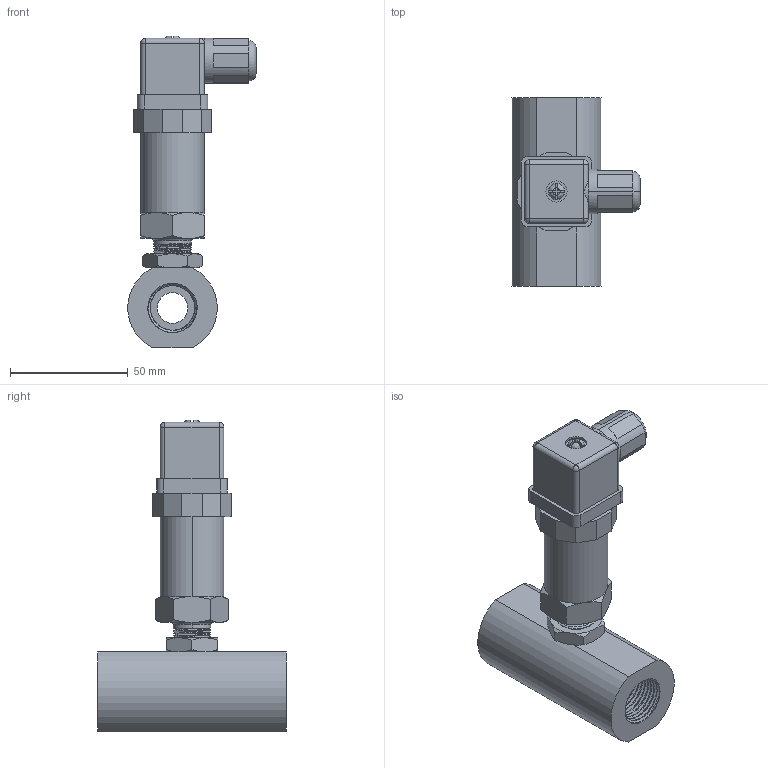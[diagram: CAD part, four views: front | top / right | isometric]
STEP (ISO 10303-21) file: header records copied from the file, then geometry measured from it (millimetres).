
FILE_DESCRIPTION( (''), '2;1');
FILE_NAME( 'QTKB_DN12_female-thread_DIN-plug.step', '2024-10-14T08:16:19+08:00', (''), (''), '', '', '');
FILE_SCHEMA (('AUTOMOTIVE_DESIGN { 1 0 10303 214 3 1 1 1 }'));
Length unit declared in the file: millimetre
Products named in the file (1): QTKB DN12_female-thread_DIN-plug
Bounding box: 54.42 x 80 x 132.5 mm (x, y, z)
Volume: 133770.3 mm3; surface area: 37854.7 mm2
Topology: 5 solids, 6 shells, 372 faces, 989 edges, 647 vertices
Faces by surface type: plane 244, cylinder 59, cone 39, bspline 22, torus 4, sphere 4
Full cylindrical faces by diameter (mm): 13 x1, 17 x1, 21 x2
Entity records: 20773 total; most frequent: CARTESIAN_POINT 11717, ORIENTED_EDGE 1950, DIRECTION 1705, EDGE_CURVE 975, VERTEX_POINT 643, LINE 629, VECTOR 629, AXIS2_PLACEMENT_3D 538
